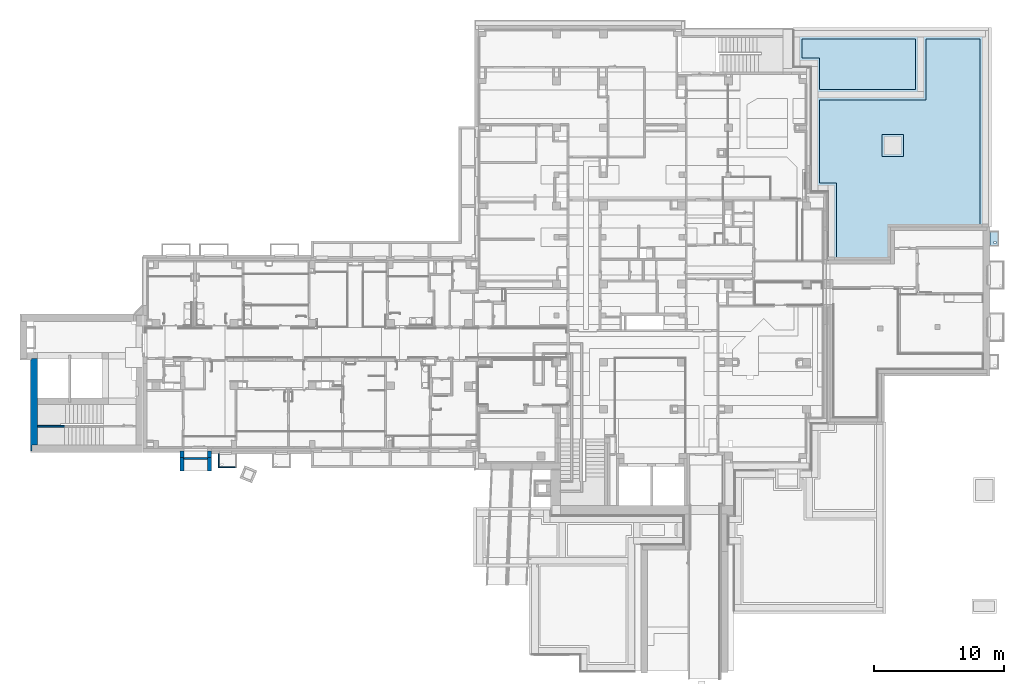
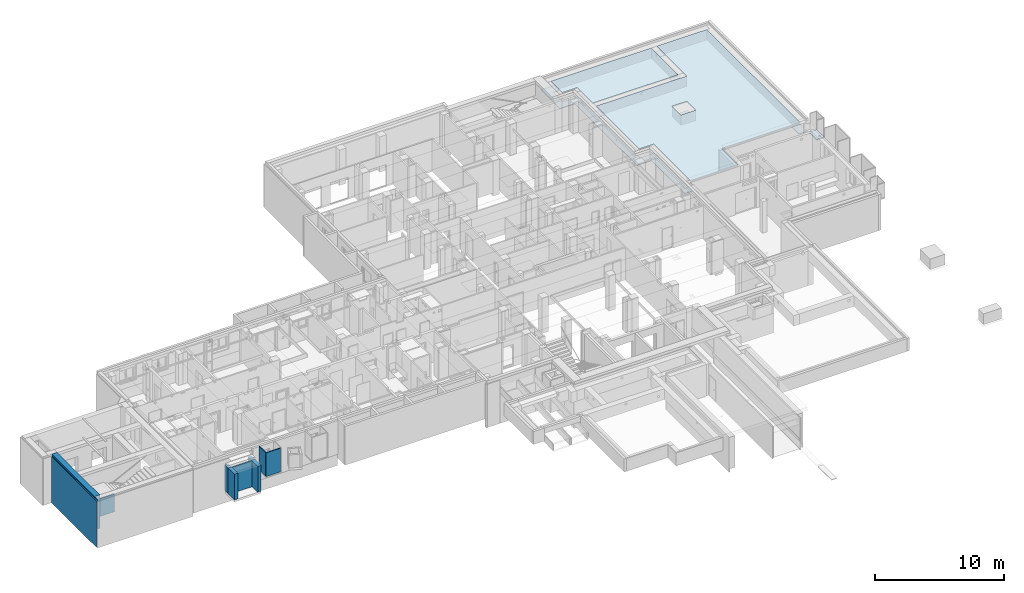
# One storey, part 8 of 84: 9 walls, 3 slabs.
"""IFC4 building model written with IfcOpenShell, lengths in metres."""

from ifc_helpers import new_model, entity, si_unit, converted_unit, derived_unit, frame, frame_2d, origin, origin_with_axes, place, context, subcontext, project, spatial, polyline, rectangle, outline, extrude, clip, bounded_halfspace, material, layer, layer_set, layer_usage, element, save


model = new_model("IFC4")

# Units and contexts
model_context = context("Model", 3, precision=1e-05, world=origin())
body_context = subcontext(model_context, "Body", "Model", "MODEL_VIEW")
ifc_project = project(units=[si_unit("LENGTHUNIT", "METRE"), si_unit("AREAUNIT", "SQUARE_METRE"), si_unit("VOLUMEUNIT", "CUBIC_METRE"), si_unit("MASSUNIT", "GRAM", prefix="KILO"), converted_unit("PLANEANGLEUNIT", "DEGREE", entity("IfcPlaneAngleMeasure", 0.0174532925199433), si_unit("PLANEANGLEUNIT", "RADIAN"), dimensions=[0, 0, 0, 0, 0, 0, 0]), derived_unit("THERMALTRANSMITTANCEUNIT", [(si_unit("POWERUNIT", "WATT"), 1), (si_unit("THERMODYNAMICTEMPERATUREUNIT", "KELVIN"), -1), (si_unit("LENGTHUNIT", "METRE"), -2)]), derived_unit("VOLUMETRICFLOWRATEUNIT", [(si_unit("LENGTHUNIT", "METRE"), 3), (converted_unit("TIMEUNIT", "hour", entity("IfcTimeMeasure", 3600.0), si_unit("TIMEUNIT", "SECOND"), dimensions=[0, 0, 1, 0, 0, 0, 0]), -1), (si_unit("LENGTHUNIT", "METRE"), -1)])], contexts=[model_context])

# Site, building, storey
site_placement = place(None, origin())
site = spatial("IfcSite", under=ifc_project, at=site_placement, Name="3. ASŘ", CompositionType="ELEMENT")
building_placement = place(site_placement, origin())
building = spatial("IfcBuilding", under=site, at=building_placement, Name="Pavilon C", CompositionType="ELEMENT")
storey_placement = place(building_placement, frame((0.0, 0.0, -3.3)))
storey = spatial("IfcBuildingStorey", under=building, at=storey_placement, Name="Půdorys 1.PP", CompositionType="ELEMENT", Elevation=-3.3)

# Slabs
ifc_material_1 = material(Name="ANGLICKÝ DVOREK SE DNEM POCHOZÍ")
slab_1_placement = place(storey_placement, frame((64.02, 16.12, 1.82)))
element("IfcSlab", 1, at=slab_1_placement, inside=storey, material=ifc_material_1, Name="DNO ANGLICKÉHO DVORKU", PredefinedType="FLOOR", context=body_context, shape_type="SweptSolid", body=[
    extrude(outline(polyline([(0.0, 0.0), (0.68, 0.0), (0.68, 1.16), (0.0, 1.16), (0.0, 0.0)]), holes=[polyline([(0.475, 0.204999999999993), (0.325, 0.204999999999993), (0.325, 0.354999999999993), (0.475, 0.354999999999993), (0.475, 0.204999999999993)])]), origin_with_axes(), (0.0, 0.0, 1.0), 0.1),
])
ifc_material_2 = material(Name="BETONOVÁ KCE")
slab_2_placement = place(storey_placement, frame((48.905, 15.05, 1.75)))
element("IfcSlab", 2, at=slab_2_placement, inside=storey, material=ifc_material_2, Name="Podkladní beton", PredefinedType="FLOOR", context=body_context, shape_type="SweptSolid", body=[
    extrude(outline(polyline([(1.35, 5.12499999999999), (2.65, 5.12499999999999), (2.65, 0.0), (3.35, 0.0), (3.35, 5.92499999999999), (2.05, 5.92499999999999), (2.05, 12.3), (10.195, 12.3), (10.195, 16.975), (14.37, 16.975), (14.37, 2.54999999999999), (15.17, 2.54999999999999), (15.17, 17.775), (0.0, 17.775), (0.0, 14.805), (1.35, 14.805), (1.35, 5.12499999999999)]), holes=[polyline([(0.7, 15.505), (0.7, 16.975), (9.395, 16.975), (9.395, 13.1), (2.05, 13.1), (2.05, 15.505), (0.7, 15.505)])]), origin_with_axes(), (0.0, 0.0, 1.0), 0.05),
    extrude(rectangle(XDim=1.7, YDim=1.65, at=frame_2d((-0.825, 0.85), x_axis=(0.0, 1.0))), frame((8.49499999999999, 7.94999999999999, 0.0), z_axis=(0.0, 0.0, 1.0), x_axis=(1.0, 0.0, 0.0)), (0.0, 0.0, 1.0), 0.05),
])
ifc_material_3 = material(Name="BETONOVÁ KCE")
slab_3_placement = place(storey_placement, frame((49.455, 15.05, 2.7)))
element("IfcSlab", 3, at=slab_3_placement, inside=storey, material=ifc_material_3, Name="Podkladní beton", PredefinedType="FLOOR", context=body_context, shape_type="SweptSolid", body=[
    extrude(outline(polyline([(1.3, 5.77499999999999), (1.3, 0.0), (5.57388830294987, 0.0), (5.57388830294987, 2.54999999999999), (12.62, 2.54999999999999), (12.62, 17.125), (8.145, 17.125), (8.145, 12.45), (0.0, 12.45), (0.0, 5.77499999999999), (1.3, 5.77499999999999)]), holes=[polyline([(6.44499999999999, 8.09999999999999), (5.09499999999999, 8.09999999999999), (5.09499999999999, 9.49999999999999), (6.44499999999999, 9.49999999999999), (6.44499999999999, 8.09999999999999)])]), frame((1.35, 0.0, 0.0), z_axis=(0.0, 0.0, 1.0), x_axis=(1.0, 0.0, 0.0)), (0.0, 0.0, 1.0), 0.1),
    extrude(outline(polyline([(0.0, 2.405), (1.35, 2.405), (1.35, 0.0), (8.995, 0.0), (8.995, 4.175), (0.0, 4.175), (0.0, 2.405)])), frame((0.0, 12.95, 0.0), z_axis=(0.0, 0.0, 1.0), x_axis=(1.0, 0.0, 0.0)), (0.0, 0.0, 1.0), 0.1),
])

# Walls
ifc_material_4 = material(Name="ZELEZOBETONOVÁ KCE")
ifc_layer_1 = layer(ifc_material_4, 0.449999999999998)
ifc_material_5 = material(Name="LIGNOPOR")
ifc_layer_2 = layer(ifc_material_5, 0.0249999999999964)
ifc_material_6 = material(Name="PÓROBETONOVÉ ZDIVO")
ifc_layer_3 = layer(ifc_material_6, 0.08)
ifc_layer_set_1 = layer_set([ifc_layer_1, ifc_layer_2, ifc_layer_3])
ifc_layer_usage_1 = layer_usage(ifc_layer_set_1, "AXIS2", "POSITIVE", 0.0)
wall_1_placement = place(storey_placement, frame((-9.07499999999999, 0.850000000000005, -1.45), z_axis=(0.0, 0.0, 1.0), x_axis=(1.09412896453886e-15, 1.0, 0.0)))
element("IfcWall", 4, at=wall_1_placement, inside=storey, material=ifc_layer_usage_1, Name="ZELEZOBETONOVÁ KCE", context=body_context, shape_type="Clipping", body=[
    clip(clip(clip(extrude(outline(polyline([(0.475000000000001, -0.554999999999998), (7.125, -0.554999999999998), (7.125, -0.104999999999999), (7.1, -0.105), (7.1, -0.0800000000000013), (7.02, -0.0800000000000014), (7.02, -3.23315109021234e-15), (0.0, 0.0), (8.75303171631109e-17, -0.0800000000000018), (0.0250000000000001, -0.0800000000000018), (0.0250000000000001, -0.105), (0.475000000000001, -0.104999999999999), (0.475000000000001, -0.554999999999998)])), frame((-0.475000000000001, 0.554999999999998, 0.0), z_axis=(0.0, 0.0, 1.0), x_axis=(1.0, 0.0, 0.0)), (0.0, 0.0, 1.0), 4.53), bounded_halfspace(frame((3.325, 0.225, 1.35), z_axis=(0.0, 0.0, 1.0), x_axis=(8.35792959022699e-17, -1.0, 0.0)), True, origin_with_axes(), polyline([(4.17136667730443e-16, 0.449999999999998), (4.54747350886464e-16, 4.97552248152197e-31), (6.65, 0.0), (6.65, 0.449999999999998), (4.17136667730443e-16, 0.449999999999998)]))), bounded_halfspace(frame((3.14916666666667, 0.462499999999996, 1.45), z_axis=(0.0, 0.0, 1.0), x_axis=(-1.0, -5.39634728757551e-17, 0.0)), True, origin_with_axes(), polyline([(6.545, 0.474999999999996), (-0.450000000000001, 0.474999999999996), (-0.450000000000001, 0.449999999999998), (4.17136667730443e-16, 0.449999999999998), (6.625, 0.449999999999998), (6.625, 0.474999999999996), (6.545, 0.474999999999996)]))), bounded_halfspace(frame((2.338, 0.506999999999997, 4.4), z_axis=(0.0, 0.0, -1.0), x_axis=(1.0, 3.14004845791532e-16, 0.0)), True, origin_with_axes(), polyline([(-0.450000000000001, 0.474999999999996), (6.545, 0.474999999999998), (6.545, 0.554999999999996), (-0.475000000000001, 0.554999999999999), (-0.475000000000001, 0.474999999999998), (-0.450000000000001, 0.474999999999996)]))),
])
ifc_material_7 = material(Name="ZDIVO Z CDm")
ifc_layer_4 = layer(ifc_material_7, 0.125)
ifc_layer_set_2 = layer_set([ifc_layer_4])
ifc_layer_usage_2 = layer_usage(ifc_layer_set_2, "AXIS2", "POSITIVE", 0.0)
wall_2_placement = place(storey_placement, frame((-9.07499999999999, 2.225, -0.1)))
element("IfcWall", 5, at=wall_2_placement, inside=storey, material=ifc_layer_usage_2, Name="ZDIVO Z CDm", context=body_context, shape_type="SweptSolid", body=[
    extrude(rectangle(XDim=2.09010000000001, YDim=0.125, at=frame_2d((1.04505000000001, 0.0625), x_axis=(1.0, 0.0))), origin_with_axes(), (0.0, 0.0, 1.0), 1.68),
])
ifc_material_8 = material(Name="ZELEZOBETONOVÁ KCE")
ifc_layer_5 = layer(ifc_material_8, 0.3)
ifc_layer_set_3 = layer_set([ifc_layer_5])
ifc_layer_usage_3 = layer_usage(ifc_layer_set_3, "AXIS2", "POSITIVE", 0.0)
wall_3_placement = place(storey_placement, frame((3.95, 0.400000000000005, -0.05), z_axis=(0.0, 0.0, 1.0), x_axis=(0.0, -1.0, 0.0)))
element("IfcWall", 6, at=wall_3_placement, inside=storey, material=ifc_layer_usage_3, Name="ZELEZOBETONOVÁ KCE", context=body_context, shape_type="SweptSolid", body=[
    extrude(rectangle(XDim=0.525, YDim=0.3, at=frame_2d((0.2625, 0.15), x_axis=(1.0, 0.0))), origin_with_axes(), (0.0, 0.0, 1.0), 2.45),
])
ifc_material_9 = material(Name="ZELEZOBETONOVÁ KCE")
ifc_layer_6 = layer(ifc_material_9, 0.3)
ifc_layer_set_4 = layer_set([ifc_layer_6])
ifc_layer_usage_4 = layer_usage(ifc_layer_set_4, "AXIS2", "POSITIVE", 0.0)
wall_4_placement = place(storey_placement, frame((3.95, -0.124999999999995, -0.05), z_axis=(0.0, 0.0, 1.0), x_axis=(0.0, -1.0, 0.0)))
element("IfcWall", 7, at=wall_4_placement, inside=storey, material=ifc_layer_usage_4, Name="ZELEZOBETONOVÁ KCE", context=body_context, shape_type="SweptSolid", body=[
    extrude(rectangle(XDim=1.0, YDim=0.3, at=frame_2d((0.5, 0.15), x_axis=(1.0, 0.0))), origin_with_axes(), (0.0, 0.0, 1.0), 2.45),
])
ifc_material_10 = material(Name="ZDIVO Z CDm")
ifc_layer_7 = layer(ifc_material_10, 0.125)
ifc_layer_set_5 = layer_set([ifc_layer_7])
ifc_layer_usage_5 = layer_usage(ifc_layer_set_5, "AXIS2", "POSITIVE", 0.0)
wall_5_placement = place(storey_placement, frame((3.95, -0.124999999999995, -0.05), z_axis=(0.0, 0.0, 1.0), x_axis=(-1.0, 0.0, 0.0)))
element("IfcWall", 8, at=wall_5_placement, inside=storey, material=ifc_layer_usage_5, Name="ZDIVO Z CDm", context=body_context, shape_type="SweptSolid", body=[
    extrude(rectangle(XDim=1.8, YDim=0.125, at=frame_2d((0.9, 0.0624999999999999), x_axis=(1.0, 0.0))), origin_with_axes(), (0.0, 0.0, 1.0), 2.45),
])
ifc_material_11 = material(Name="ZELEZOBETONOVÁ KCE")
ifc_layer_8 = layer(ifc_material_11, 0.3)
ifc_layer_set_6 = layer_set([ifc_layer_8])
ifc_layer_usage_6 = layer_usage(ifc_layer_set_6, "AXIS2", "POSITIVE", 0.0)
wall_6_placement = place(storey_placement, frame((2.15, -1.125, -0.05), z_axis=(0.0, 0.0, 1.0), x_axis=(0.0, 1.0, 0.0)))
element("IfcWall", 9, at=wall_6_placement, inside=storey, material=ifc_layer_usage_6, Name="ZELEZOBETONOVÁ KCE", context=body_context, shape_type="SweptSolid", body=[
    extrude(rectangle(XDim=1.0, YDim=0.3, at=frame_2d((0.5, 0.15), x_axis=(1.0, 0.0))), origin_with_axes(), (0.0, 0.0, 1.0), 2.45),
])
ifc_material_12 = material(Name="ZELEZOBETONOVÁ KCE")
ifc_layer_9 = layer(ifc_material_12, 0.3)
ifc_layer_set_7 = layer_set([ifc_layer_9])
ifc_layer_usage_7 = layer_usage(ifc_layer_set_7, "AXIS2", "POSITIVE", 0.0)
wall_7_placement = place(storey_placement, frame((2.15, -0.124999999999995, -0.05), z_axis=(0.0, 0.0, 1.0), x_axis=(0.0, 1.0, 0.0)))
element("IfcWall", 10, at=wall_7_placement, inside=storey, material=ifc_layer_usage_7, Name="ZELEZOBETONOVÁ KCE", context=body_context, shape_type="SweptSolid", body=[
    extrude(rectangle(XDim=0.525, YDim=0.3, at=frame_2d((0.2625, 0.15), x_axis=(1.0, 0.0))), origin_with_axes(), (0.0, 0.0, 1.0), 2.45),
])
ifc_material_13 = material(Name="POHLEDOVY BETON")
ifc_layer_10 = layer(ifc_material_13, 0.08)
ifc_layer_set_8 = layer_set([ifc_layer_10])
ifc_layer_usage_8 = layer_usage(ifc_layer_set_8, "AXIS2", "POSITIVE", 0.0)
wall_8_placement = place(storey_placement, frame((4.795, 0.175000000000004, 1.0), z_axis=(0.0, 0.0, 1.0), x_axis=(0.0, -1.0, 0.0)))
element("IfcWall", 11, at=wall_8_placement, inside=storey, material=ifc_layer_usage_8, Name="STĚNA ANGLICKÉHO DVORKU", context=body_context, shape_type="SweptSolid", body=[
    extrude(rectangle(XDim=1.0, YDim=0.08, at=frame_2d((0.5, 0.04), x_axis=(1.0, 0.0))), origin_with_axes(), (0.0, 0.0, 1.0), 2.25),
])
ifc_material_14 = material(Name="POHLEDOVY BETON")
ifc_layer_11 = layer(ifc_material_14, 0.08)
ifc_layer_set_9 = layer_set([ifc_layer_11])
ifc_layer_usage_9 = layer_usage(ifc_layer_set_9, "AXIS2", "POSITIVE", 0.0)
wall_9_placement = place(storey_placement, frame((4.795, -0.904999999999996, 1.0)))
element("IfcWall", 12, at=wall_9_placement, inside=storey, material=ifc_layer_usage_9, Name="STĚNA ANGLICKÉHO DVORKU", context=body_context, shape_type="SweptSolid", body=[
    extrude(rectangle(XDim=1.33, YDim=0.08, at=frame_2d((0.665, 0.04), x_axis=(1.0, 0.0))), origin_with_axes(), (0.0, 0.0, 1.0), 2.25),
])

save(model, "model.ifc")
